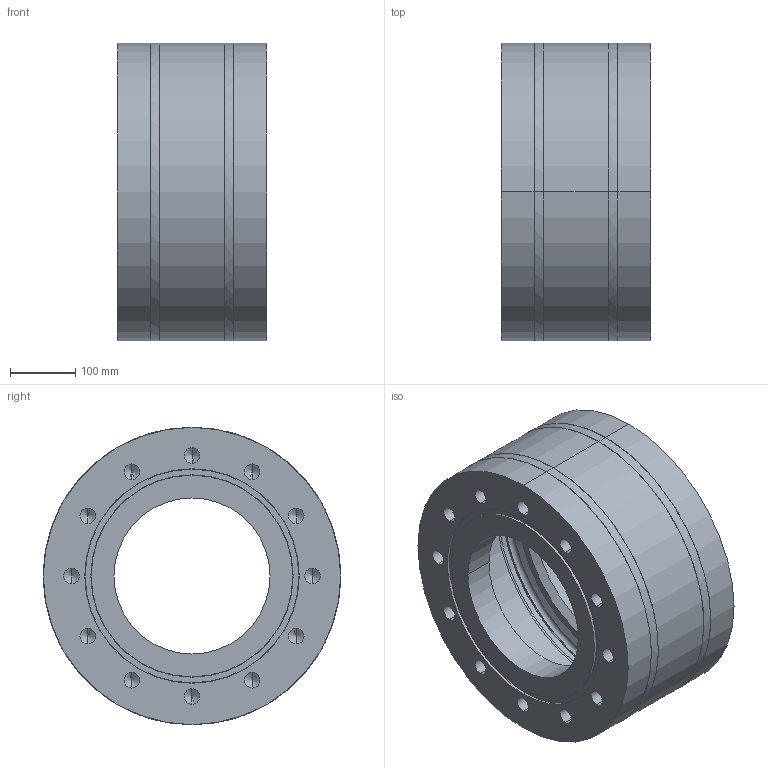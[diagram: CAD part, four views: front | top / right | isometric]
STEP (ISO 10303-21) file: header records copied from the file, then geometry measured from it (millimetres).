
FILE_DESCRIPTION (( 'STEP AP214' ), '1' );
FILE_NAME ('RVZ3139xC24A5A05500_DN250_DIN-RR-Nut_PS25.STEP', '2009-11-10T10:08:42', ( 'Eckhard Grams' ), ( 'AWP Kälte Klima Armaturen GmbH' ), 'SwSTEP 2.0', 'SolidWorks 2002296', '' );
FILE_SCHEMA (( 'AUTOMOTIVE_DESIGN' ));
Length unit declared in the file: millimetre
Products named in the file (7): RVZ3139xC24A5A05500_DN250_DIN-RR-Nut_PS25; Geh,kpl 31391B24-5030554_DIN-FL-RR-Nut_PS25_Standard; Eintr-FL 31391B24-5433004_DN250_DIN-FL_PS25_E-FL in Geh,kpl 31391E24-5030551 RR-NUT; Geh 31391E24-5034004_DN250_PS40_Standard; Austr-FL 31391B24-5436004_DN250_DIN-FL_PS25_A-FL in Geh,kpl 31391E24-5030551 RR-Nut; bead Geh,kpl 31391E24-2_Standard; bead Geh,kpl 31391E24-1_Standard
Assembly tree (6 placements, depth 3):
  RVZ3139xC24A5A05500_DN250_DIN-RR-Nut_PS25
    Geh,kpl 31391B24-5030554_DIN-FL-RR-Nut_PS25_Standard
      bead Geh,kpl 31391E24-2_Standard
      Austr-FL 31391B24-5436004_DN250_DIN-FL_PS25_A-FL in Geh,kpl 31391E24-5030551 RR-Nut
      Eintr-FL 31391B24-5433004_DN250_DIN-FL_PS25_E-FL in Geh,kpl 31391E24-5030551 RR-NUT
      bead Geh,kpl 31391E24-1_Standard
      Geh 31391E24-5034004_DN250_PS40_Standard
Bounding box: 230 x 457 x 457 mm (x, y, z)
Volume: 12556413 mm3; surface area: 1276984.3 mm2
Topology: 5 solids, 5 shells, 276 faces, 680 edges, 397 vertices
Faces by surface type: cylinder 102, cone 87, plane 65, torus 14, bspline 8
Entity records: 11819 total; most frequent: CARTESIAN_POINT 5313, DIRECTION 1355, ORIENTED_EDGE 1264, EDGE_CURVE 632, AXIS2_PLACEMENT_3D 559, VERTEX_POINT 397, EDGE_LOOP 317, CIRCLE 281
